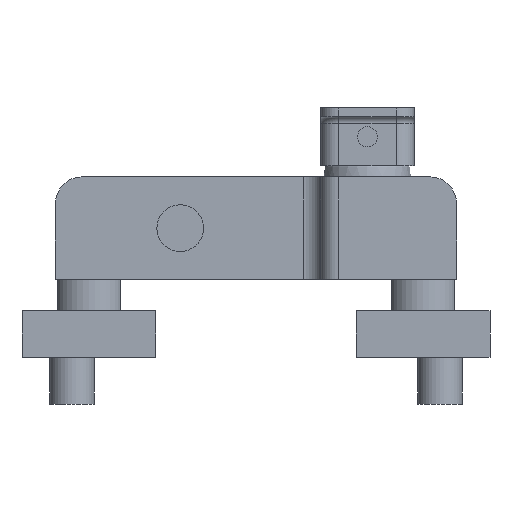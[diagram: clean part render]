
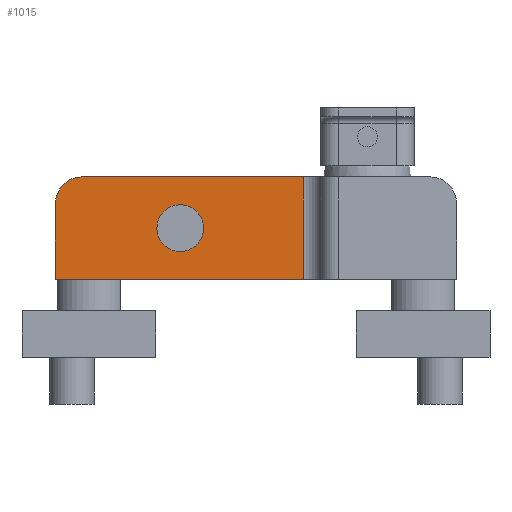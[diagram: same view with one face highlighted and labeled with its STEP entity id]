
A CAD part, front view. The second image highlights one B-rep face of the part: STEP entity #1015.
In plain terms, the highlighted planar face has unit normal (0, -1, 0).
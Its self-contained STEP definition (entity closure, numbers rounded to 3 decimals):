
#17=FACE_BOUND('',#322,.T.);
#61=LINE('',#1646,#155);
#62=LINE('',#1649,#156);
#63=LINE('',#1653,#157);
#64=LINE('',#1655,#158);
#65=LINE('',#1656,#159);
#155=VECTOR('',#1320,8.);
#156=VECTOR('',#1323,10.);
#157=VECTOR('',#1326,10.);
#158=VECTOR('',#1327,10.);
#159=VECTOR('',#1328,10.);
#261=FACE_OUTER_BOUND('',#321,.T.);
#321=EDGE_LOOP('',(#774,#775,#776,#777,#778,#779));
#322=EDGE_LOOP('',(#780));
#387=CIRCLE('',#1124,12.);
#388=CIRCLE('',#1125,10.5);
#450=VERTEX_POINT('',#1639);
#453=VERTEX_POINT('',#1644);
#454=VERTEX_POINT('',#1648);
#455=VERTEX_POINT('',#1650);
#456=VERTEX_POINT('',#1652);
#457=VERTEX_POINT('',#1654);
#458=VERTEX_POINT('',#1657);
#571=EDGE_CURVE('',#453,#450,#61,.T.);
#572=EDGE_CURVE('',#454,#453,#62,.T.);
#573=EDGE_CURVE('',#455,#454,#387,.T.);
#574=EDGE_CURVE('',#455,#456,#63,.T.);
#575=EDGE_CURVE('',#457,#456,#64,.T.);
#576=EDGE_CURVE('',#450,#457,#65,.T.);
#577=EDGE_CURVE('',#458,#458,#388,.T.);
#774=ORIENTED_EDGE('',*,*,#571,.F.);
#775=ORIENTED_EDGE('',*,*,#572,.F.);
#776=ORIENTED_EDGE('',*,*,#573,.F.);
#777=ORIENTED_EDGE('',*,*,#574,.T.);
#778=ORIENTED_EDGE('',*,*,#575,.F.);
#779=ORIENTED_EDGE('',*,*,#576,.F.);
#780=ORIENTED_EDGE('',*,*,#577,.T.);
#962=PLANE('',#1123);
#1015=ADVANCED_FACE('',(#261,#17),#962,.T.);
#1123=AXIS2_PLACEMENT_3D('',#1647,#1321,#1322);
#1124=AXIS2_PLACEMENT_3D('',#1651,#1324,#1325);
#1125=AXIS2_PLACEMENT_3D('',#1658,#1329,#1330);
#1320=DIRECTION('',(0.,0.,-1.));
#1321=DIRECTION('center_axis',(0.,-1.,0.));
#1322=DIRECTION('ref_axis',(-1.,0.,0.));
#1323=DIRECTION('',(1.,0.,0.));
#1324=DIRECTION('center_axis',(0.,1.,0.));
#1325=DIRECTION('ref_axis',(-0.707,0.,0.707));
#1326=DIRECTION('',(0.,0.,-1.));
#1327=DIRECTION('',(-1.,0.,0.));
#1328=DIRECTION('',(-1.,0.,0.));
#1329=DIRECTION('center_axis',(0.,1.,0.));
#1330=DIRECTION('ref_axis',(0.,0.,1.));
#1639=CARTESIAN_POINT('',(44.284,-15.5,-73.));
#1644=CARTESIAN_POINT('',(44.284,-15.5,-27.));
#1646=CARTESIAN_POINT('',(44.284,-15.5,-27.));
#1647=CARTESIAN_POINT('Origin',(52.,-15.5,-27.));
#1648=CARTESIAN_POINT('',(-55.,-15.5,-27.));
#1649=CARTESIAN_POINT('',(-67.,-15.5,-27.));
#1650=CARTESIAN_POINT('',(-67.,-15.5,-39.));
#1651=CARTESIAN_POINT('Origin',(-55.,-15.5,-39.));
#1652=CARTESIAN_POINT('',(-67.,-15.5,-73.));
#1653=CARTESIAN_POINT('',(-67.,-15.5,-27.));
#1654=CARTESIAN_POINT('',(-52.,-15.5,-73.));
#1655=CARTESIAN_POINT('',(-67.,-15.5,-73.));
#1656=CARTESIAN_POINT('',(-67.,-15.5,-73.));
#1657=CARTESIAN_POINT('',(-11.,-15.5,-60.5));
#1658=CARTESIAN_POINT('Origin',(-11.,-15.5,-50.));
